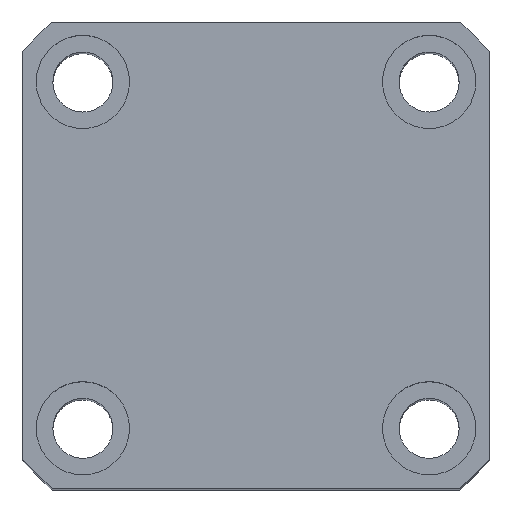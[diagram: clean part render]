
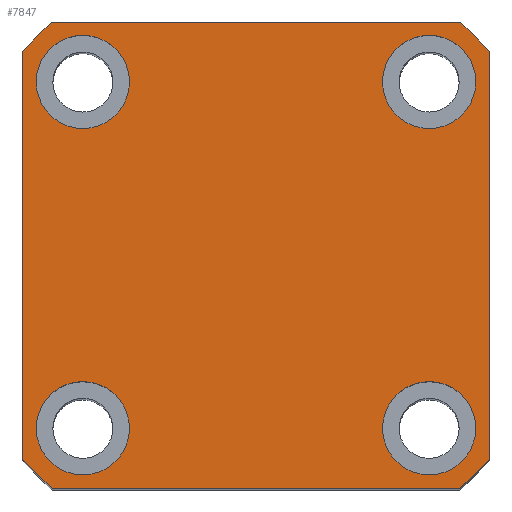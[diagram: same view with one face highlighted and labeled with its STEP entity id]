
A CAD part, top view. The second image highlights one B-rep face of the part: STEP entity #7847.
In plain terms, the highlighted planar face has unit normal (0, 0, 1).
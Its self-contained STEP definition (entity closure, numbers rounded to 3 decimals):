
#21 = ORIENTED_EDGE ( 'NONE', *, *, #2588, .F. ) ;
#117 = DIRECTION ( 'NONE',  ( 0., 0., 1. ) ) ;
#118 = AXIS2_PLACEMENT_3D ( 'NONE', #7707, #3044, #8468 ) ;
#228 = CARTESIAN_POINT ( 'NONE',  ( -30.615, -35., 155. ) ) ;
#421 = DIRECTION ( 'NONE',  ( -1., 0., 0. ) ) ;
#455 = EDGE_LOOP ( 'NONE', ( #818, #6619 ) ) ;
#544 = CARTESIAN_POINT ( 'NONE',  ( 0., 0., 155. ) ) ;
#580 = ORIENTED_EDGE ( 'NONE', *, *, #7284, .T. ) ;
#748 = CARTESIAN_POINT ( 'NONE',  ( 19., -26., 155. ) ) ;
#818 = ORIENTED_EDGE ( 'NONE', *, *, #9929, .F. ) ;
#911 = CIRCLE ( 'NONE', #8374, 7. ) ;
#921 = CIRCLE ( 'NONE', #1012, 46.5 ) ;
#1012 = AXIS2_PLACEMENT_3D ( 'NONE', #6158, #1507, #6920 ) ;
#1148 = CIRCLE ( 'NONE', #6746, 46.5 ) ;
#1322 = DIRECTION ( 'NONE',  ( 1., 0., 0. ) ) ;
#1382 = EDGE_LOOP ( 'NONE', ( #7918, #8083 ) ) ;
#1407 = AXIS2_PLACEMENT_3D ( 'NONE', #6599, #1948, #7374 ) ;
#1507 = DIRECTION ( 'NONE',  ( 0., 0., 1. ) ) ;
#1517 = VERTEX_POINT ( 'NONE', #6803 ) ;
#1681 = VERTEX_POINT ( 'NONE', #8067 ) ;
#1948 = DIRECTION ( 'NONE',  ( 0., 0., 1. ) ) ;
#1965 = VECTOR ( 'NONE', #7243, 1000. ) ;
#1995 = CARTESIAN_POINT ( 'NONE',  ( -26., -26., 155. ) ) ;
#2270 = ORIENTED_EDGE ( 'NONE', *, *, #3896, .T. ) ;
#2275 = EDGE_CURVE ( 'NONE', #1681, #5174, #5509, .T. ) ;
#2306 = DIRECTION ( 'NONE',  ( 0., 0., 1. ) ) ;
#2410 = EDGE_CURVE ( 'NONE', #4160, #1517, #2926, .T. ) ;
#2588 = EDGE_CURVE ( 'NONE', #5419, #6857, #911, .T. ) ;
#2592 = DIRECTION ( 'NONE',  ( 0., -1., 0. ) ) ;
#2635 = VERTEX_POINT ( 'NONE', #3169 ) ;
#2764 = DIRECTION ( 'NONE',  ( 1., 0., 0. ) ) ;
#2850 = EDGE_CURVE ( 'NONE', #7808, #6125, #6107, .T. ) ;
#2926 = CIRCLE ( 'NONE', #4778, 7. ) ;
#2952 = ORIENTED_EDGE ( 'NONE', *, *, #9751, .F. ) ;
#2963 = CIRCLE ( 'NONE', #1407, 46.5 ) ;
#3008 = VERTEX_POINT ( 'NONE', #5836 ) ;
#3044 = DIRECTION ( 'NONE',  ( 0., 0., 1. ) ) ;
#3059 = EDGE_CURVE ( 'NONE', #6857, #5419, #7416, .T. ) ;
#3169 = CARTESIAN_POINT ( 'NONE',  ( -33., -26., 155. ) ) ;
#3223 = ORIENTED_EDGE ( 'NONE', *, *, #3838, .T. ) ;
#3396 = CARTESIAN_POINT ( 'NONE',  ( -35., 30.615, 155. ) ) ;
#3485 = DIRECTION ( 'NONE',  ( 0., 1., 0. ) ) ;
#3507 = CARTESIAN_POINT ( 'NONE',  ( 0., 0., 155. ) ) ;
#3615 = CARTESIAN_POINT ( 'NONE',  ( -35., -30.615, 155. ) ) ;
#3651 = FACE_BOUND ( 'NONE', #9548, .T. ) ;
#3782 = LINE ( 'NONE', #7277, #7679 ) ;
#3809 = ORIENTED_EDGE ( 'NONE', *, *, #2275, .F. ) ;
#3838 = EDGE_CURVE ( 'NONE', #9625, #7808, #2963, .T. ) ;
#3886 = CARTESIAN_POINT ( 'NONE',  ( 26., 26., 155. ) ) ;
#3896 = EDGE_CURVE ( 'NONE', #5046, #5654, #8899, .T. ) ;
#3944 = LINE ( 'NONE', #5072, #6259 ) ;
#4090 = CARTESIAN_POINT ( 'NONE',  ( 30.615, -35., 155. ) ) ;
#4112 = CARTESIAN_POINT ( 'NONE',  ( -35., -35., 155. ) ) ;
#4160 = VERTEX_POINT ( 'NONE', #9349 ) ;
#4306 = DIRECTION ( 'NONE',  ( 1., 0., 0. ) ) ;
#4321 = DIRECTION ( 'NONE',  ( 0., 0., 1. ) ) ;
#4347 = CARTESIAN_POINT ( 'NONE',  ( 19., 26., 155. ) ) ;
#4355 = DIRECTION ( 'NONE',  ( 0., 0., 1. ) ) ;
#4498 = EDGE_CURVE ( 'NONE', #6726, #3008, #3944, .T. ) ;
#4519 = CARTESIAN_POINT ( 'NONE',  ( -26., 26., 155. ) ) ;
#4529 = CARTESIAN_POINT ( 'NONE',  ( 26., -26., 155. ) ) ;
#4554 = ORIENTED_EDGE ( 'NONE', *, *, #3059, .F. ) ;
#4697 = DIRECTION ( 'NONE',  ( 1., 0., 0. ) ) ;
#4748 = CARTESIAN_POINT ( 'NONE',  ( -26., -26., 155. ) ) ;
#4778 = AXIS2_PLACEMENT_3D ( 'NONE', #6961, #2306, #7741 ) ;
#4872 = ORIENTED_EDGE ( 'NONE', *, *, #7868, .T. ) ;
#5046 = VERTEX_POINT ( 'NONE', #6101 ) ;
#5072 = CARTESIAN_POINT ( 'NONE',  ( -35., 35., 155. ) ) ;
#5087 = CARTESIAN_POINT ( 'NONE',  ( 35., 35., 155. ) ) ;
#5104 = AXIS2_PLACEMENT_3D ( 'NONE', #8943, #4321, #9738 ) ;
#5174 = VERTEX_POINT ( 'NONE', #748 ) ;
#5272 = CIRCLE ( 'NONE', #9494, 7. ) ;
#5314 = DIRECTION ( 'NONE',  ( 1., 0., 0. ) ) ;
#5323 = DIRECTION ( 'NONE',  ( 1., 0., 0. ) ) ;
#5419 = VERTEX_POINT ( 'NONE', #8641 ) ;
#5423 = ORIENTED_EDGE ( 'NONE', *, *, #5748, .T. ) ;
#5466 = AXIS2_PLACEMENT_3D ( 'NONE', #4529, #9935, #5323 ) ;
#5509 = CIRCLE ( 'NONE', #118, 7. ) ;
#5518 = DIRECTION ( 'NONE',  ( 1., 0., 0. ) ) ;
#5519 = CIRCLE ( 'NONE', #6402, 46.5 ) ;
#5544 = EDGE_LOOP ( 'NONE', ( #2270, #4872, #7141, #7947, #580, #3223, #9154, #5423 ) ) ;
#5610 = EDGE_CURVE ( 'NONE', #3008, #9373, #5519, .T. ) ;
#5654 = VERTEX_POINT ( 'NONE', #8165 ) ;
#5687 = EDGE_CURVE ( 'NONE', #1517, #4160, #5272, .T. ) ;
#5748 = EDGE_CURVE ( 'NONE', #6125, #5046, #921, .T. ) ;
#5836 = CARTESIAN_POINT ( 'NONE',  ( -30.615, 35., 155. ) ) ;
#5962 = DIRECTION ( 'NONE',  ( 0., 0., 1. ) ) ;
#6101 = CARTESIAN_POINT ( 'NONE',  ( 35., -30.615, 155. ) ) ;
#6107 = LINE ( 'NONE', #4112, #1965 ) ;
#6125 = VERTEX_POINT ( 'NONE', #4090 ) ;
#6158 = CARTESIAN_POINT ( 'NONE',  ( 0., 0., 155. ) ) ;
#6259 = VECTOR ( 'NONE', #421, 1000. ) ;
#6402 = AXIS2_PLACEMENT_3D ( 'NONE', #3507, #8932, #4306 ) ;
#6599 = CARTESIAN_POINT ( 'NONE',  ( 0., 0., 155. ) ) ;
#6617 = VECTOR ( 'NONE', #3485, 1000. ) ;
#6619 = ORIENTED_EDGE ( 'NONE', *, *, #7472, .F. ) ;
#6708 = CARTESIAN_POINT ( 'NONE',  ( -19., -26., 155. ) ) ;
#6726 = VERTEX_POINT ( 'NONE', #9732 ) ;
#6746 = AXIS2_PLACEMENT_3D ( 'NONE', #544, #5962, #1322 ) ;
#6803 = CARTESIAN_POINT ( 'NONE',  ( -33., 26., 155. ) ) ;
#6857 = VERTEX_POINT ( 'NONE', #4347 ) ;
#6920 = DIRECTION ( 'NONE',  ( 1., 0., 0. ) ) ;
#6961 = CARTESIAN_POINT ( 'NONE',  ( -26., 26., 155. ) ) ;
#7141 = ORIENTED_EDGE ( 'NONE', *, *, #4498, .T. ) ;
#7243 = DIRECTION ( 'NONE',  ( 1., 0., 0. ) ) ;
#7277 = CARTESIAN_POINT ( 'NONE',  ( -35., 35., 155. ) ) ;
#7284 = EDGE_CURVE ( 'NONE', #9373, #9625, #3782, .T. ) ;
#7286 = CIRCLE ( 'NONE', #9060, 7. ) ;
#7306 = FACE_OUTER_BOUND ( 'NONE', #5544, .T. ) ;
#7374 = DIRECTION ( 'NONE',  ( 1., 0., 0. ) ) ;
#7408 = DIRECTION ( 'NONE',  ( 0., 0., 1. ) ) ;
#7416 = CIRCLE ( 'NONE', #5104, 7. ) ;
#7438 = CARTESIAN_POINT ( 'NONE',  ( 0., 0., 155. ) ) ;
#7472 = EDGE_CURVE ( 'NONE', #2635, #7595, #9240, .T. ) ;
#7556 = FACE_BOUND ( 'NONE', #8313, .T. ) ;
#7595 = VERTEX_POINT ( 'NONE', #6708 ) ;
#7679 = VECTOR ( 'NONE', #2592, 1000. ) ;
#7707 = CARTESIAN_POINT ( 'NONE',  ( 26., -26., 155. ) ) ;
#7741 = DIRECTION ( 'NONE',  ( 1., 0., 0. ) ) ;
#7808 = VERTEX_POINT ( 'NONE', #228 ) ;
#7847 = ADVANCED_FACE ( 'NONE', ( #8017, #7556, #3651, #9369, #7306 ), #8977, .T. ) ;
#7868 = EDGE_CURVE ( 'NONE', #5654, #6726, #1148, .T. ) ;
#7918 = ORIENTED_EDGE ( 'NONE', *, *, #2410, .F. ) ;
#7947 = ORIENTED_EDGE ( 'NONE', *, *, #5610, .T. ) ;
#8017 = FACE_BOUND ( 'NONE', #455, .T. ) ;
#8067 = CARTESIAN_POINT ( 'NONE',  ( 33., -26., 155. ) ) ;
#8083 = ORIENTED_EDGE ( 'NONE', *, *, #5687, .F. ) ;
#8165 = CARTESIAN_POINT ( 'NONE',  ( 35., 30.615, 155. ) ) ;
#8249 = CIRCLE ( 'NONE', #5466, 7. ) ;
#8288 = AXIS2_PLACEMENT_3D ( 'NONE', #7438, #4355, #9786 ) ;
#8313 = EDGE_LOOP ( 'NONE', ( #3809, #2952 ) ) ;
#8374 = AXIS2_PLACEMENT_3D ( 'NONE', #3886, #9311, #4697 ) ;
#8468 = DIRECTION ( 'NONE',  ( 1., 0., 0. ) ) ;
#8475 = AXIS2_PLACEMENT_3D ( 'NONE', #1995, #7408, #2764 ) ;
#8641 = CARTESIAN_POINT ( 'NONE',  ( 33., 26., 155. ) ) ;
#8899 = LINE ( 'NONE', #5087, #6617 ) ;
#8932 = DIRECTION ( 'NONE',  ( 0., 0., 1. ) ) ;
#8943 = CARTESIAN_POINT ( 'NONE',  ( 26., 26., 155. ) ) ;
#8977 = PLANE ( 'NONE',  #8288 ) ;
#9060 = AXIS2_PLACEMENT_3D ( 'NONE', #4748, #117, #5518 ) ;
#9154 = ORIENTED_EDGE ( 'NONE', *, *, #2850, .T. ) ;
#9240 = CIRCLE ( 'NONE', #8475, 7. ) ;
#9311 = DIRECTION ( 'NONE',  ( 0., 0., 1. ) ) ;
#9349 = CARTESIAN_POINT ( 'NONE',  ( -19., 26., 155. ) ) ;
#9369 = FACE_BOUND ( 'NONE', #1382, .T. ) ;
#9373 = VERTEX_POINT ( 'NONE', #3396 ) ;
#9494 = AXIS2_PLACEMENT_3D ( 'NONE', #4519, #9927, #5314 ) ;
#9548 = EDGE_LOOP ( 'NONE', ( #21, #4554 ) ) ;
#9625 = VERTEX_POINT ( 'NONE', #3615 ) ;
#9732 = CARTESIAN_POINT ( 'NONE',  ( 30.615, 35., 155. ) ) ;
#9738 = DIRECTION ( 'NONE',  ( 1., 0., 0. ) ) ;
#9751 = EDGE_CURVE ( 'NONE', #5174, #1681, #8249, .T. ) ;
#9786 = DIRECTION ( 'NONE',  ( 1., 0., 0. ) ) ;
#9927 = DIRECTION ( 'NONE',  ( 0., 0., 1. ) ) ;
#9929 = EDGE_CURVE ( 'NONE', #7595, #2635, #7286, .T. ) ;
#9935 = DIRECTION ( 'NONE',  ( 0., 0., 1. ) ) ;
